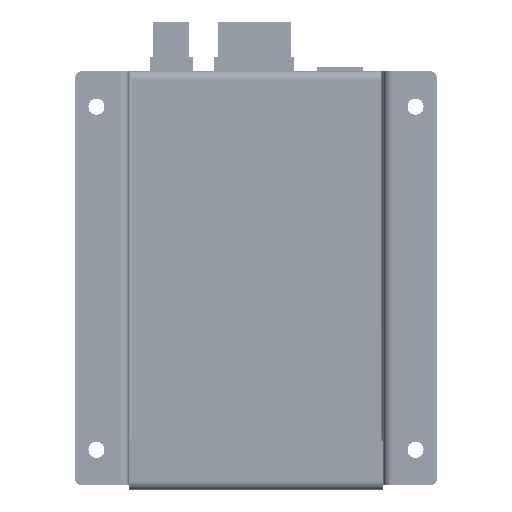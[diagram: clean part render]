
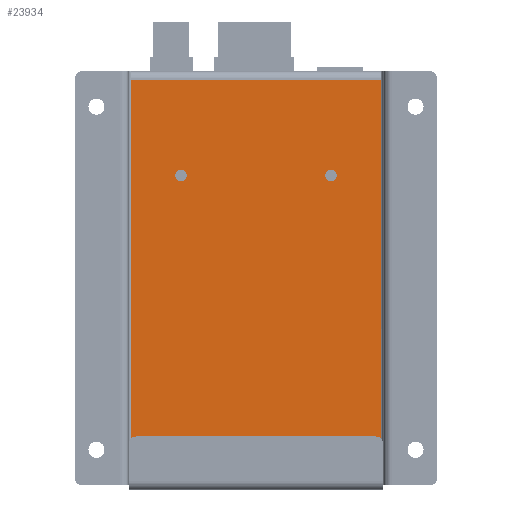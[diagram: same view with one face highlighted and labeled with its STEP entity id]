
A CAD part, front view. The second image highlights one B-rep face of the part: STEP entity #23934.
In plain terms, the highlighted planar face has unit normal (0, -1, 0).
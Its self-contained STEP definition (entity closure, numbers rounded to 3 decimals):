
#10000 = VERTEX_POINT ( 'NONE', #169410 ) ;
#12041 = ORIENTED_EDGE ( 'NONE', *, *, #264427, .F. ) ;
#13746 = VERTEX_POINT ( 'NONE', #21227 ) ;
#16510 = EDGE_CURVE ( 'NONE', #114300, #29558, #281711, .T. ) ;
#17938 = AXIS2_PLACEMENT_3D ( 'NONE', #119815, #331924, #148658 ) ;
#18495 = CARTESIAN_POINT ( 'NONE',  ( -34.5, -1.2, -56. ) ) ;
#19649 = FACE_BOUND ( 'NONE', #92859, .T. ) ;
#19705 = CARTESIAN_POINT ( 'NONE',  ( -21., -1.2, 28. ) ) ;
#19947 = EDGE_CURVE ( 'NONE', #43396, #320177, #267057, .T. ) ;
#21227 = CARTESIAN_POINT ( 'NONE',  ( 21., -1.2, -47.5 ) ) ;
#21623 = DIRECTION ( 'NONE',  ( 0., 0., 1. ) ) ;
#23934 = ADVANCED_FACE ( 'NONE', ( #72295, #202880, #19649, #73962, #253833 ), #326862, .T. ) ;
#25247 = ORIENTED_EDGE ( 'NONE', *, *, #89640, .F. ) ;
#29431 = VERTEX_POINT ( 'NONE', #198730 ) ;
#29558 = VERTEX_POINT ( 'NONE', #296949 ) ;
#32833 = LINE ( 'NONE', #244879, #218709 ) ;
#34521 = CARTESIAN_POINT ( 'NONE',  ( -21., -1.2, -47.5 ) ) ;
#34747 = CARTESIAN_POINT ( 'NONE',  ( -21., -1.2, 31.2 ) ) ;
#36784 = EDGE_CURVE ( 'NONE', #174216, #129962, #219964, .T. ) ;
#38101 = AXIS2_PLACEMENT_3D ( 'NONE', #47118, #198125, #21623 ) ;
#40131 = AXIS2_PLACEMENT_3D ( 'NONE', #221566, #140066, #223225 ) ;
#43396 = VERTEX_POINT ( 'NONE', #191731 ) ;
#45158 = CARTESIAN_POINT ( 'NONE',  ( 0., -1.2, 0. ) ) ;
#47118 = CARTESIAN_POINT ( 'NONE',  ( 21., -1.2, -45.9 ) ) ;
#50888 = EDGE_CURVE ( 'NONE', #13746, #10000, #184448, .T. ) ;
#55627 = CARTESIAN_POINT ( 'NONE',  ( -21., -1.2, 29.6 ) ) ;
#56122 = ORIENTED_EDGE ( 'NONE', *, *, #233895, .T. ) ;
#64155 = CARTESIAN_POINT ( 'NONE',  ( 35., -1.2, -56. ) ) ;
#68936 = DIRECTION ( 'NONE',  ( 0., 0., -1. ) ) ;
#72295 = FACE_BOUND ( 'NONE', #134809, .T. ) ;
#73962 = FACE_BOUND ( 'NONE', #214477, .T. ) ;
#77925 = VERTEX_POINT ( 'NONE', #284581 ) ;
#78198 = ORIENTED_EDGE ( 'NONE', *, *, #157833, .F. ) ;
#78385 = ORIENTED_EDGE ( 'NONE', *, *, #16510, .T. ) ;
#82023 = CIRCLE ( 'NONE', #109084, 1.6 ) ;
#83622 = DIRECTION ( 'NONE',  ( 0., 1., 0. ) ) ;
#87001 = DIRECTION ( 'NONE',  ( 0., 0., 1. ) ) ;
#89533 = VERTEX_POINT ( 'NONE', #314432 ) ;
#89640 = EDGE_CURVE ( 'NONE', #29431, #89533, #113984, .T. ) ;
#92859 = EDGE_LOOP ( 'NONE', ( #137679, #56122 ) ) ;
#98925 = CIRCLE ( 'NONE', #288663, 1.6 ) ;
#105920 = VERTEX_POINT ( 'NONE', #34747 ) ;
#109084 = AXIS2_PLACEMENT_3D ( 'NONE', #290941, #161942, #136425 ) ;
#113984 = LINE ( 'NONE', #322723, #252100 ) ;
#114300 = VERTEX_POINT ( 'NONE', #126632 ) ;
#114442 = ORIENTED_EDGE ( 'NONE', *, *, #288554, .T. ) ;
#119815 = CARTESIAN_POINT ( 'NONE',  ( 21., -1.2, 29.6 ) ) ;
#126632 = CARTESIAN_POINT ( 'NONE',  ( -35., -1.2, -56. ) ) ;
#129962 = VERTEX_POINT ( 'NONE', #64155 ) ;
#132806 = CARTESIAN_POINT ( 'NONE',  ( -21., -1.2, -45.9 ) ) ;
#133539 = EDGE_CURVE ( 'NONE', #285268, #77925, #186075, .T. ) ;
#134696 = DIRECTION ( 'NONE',  ( 0., 0., -1. ) ) ;
#134809 = EDGE_LOOP ( 'NONE', ( #182773, #268921 ) ) ;
#136425 = DIRECTION ( 'NONE',  ( 0., 0., 1. ) ) ;
#137679 = ORIENTED_EDGE ( 'NONE', *, *, #133539, .T. ) ;
#138959 = AXIS2_PLACEMENT_3D ( 'NONE', #298664, #208516, #178007 ) ;
#139413 = DIRECTION ( 'NONE',  ( 1., 0., 0. ) ) ;
#140066 = DIRECTION ( 'NONE',  ( 0., 1., 0. ) ) ;
#142604 = CARTESIAN_POINT ( 'NONE',  ( 21., -1.2, 29.6 ) ) ;
#143999 = AXIS2_PLACEMENT_3D ( 'NONE', #228321, #187346, #134696 ) ;
#147022 = EDGE_CURVE ( 'NONE', #105920, #240047, #82023, .T. ) ;
#148658 = DIRECTION ( 'NONE',  ( 0., 0., 1. ) ) ;
#151985 = DIRECTION ( 'NONE',  ( 0., -1., 0. ) ) ;
#152541 = VECTOR ( 'NONE', #271774, 1000. ) ;
#156594 = DIRECTION ( 'NONE',  ( -1., 0., 0. ) ) ;
#157833 = EDGE_CURVE ( 'NONE', #114300, #29431, #32833, .T. ) ;
#159071 = DIRECTION ( 'NONE',  ( 0., 0., 1. ) ) ;
#161942 = DIRECTION ( 'NONE',  ( 0., 1., 0. ) ) ;
#165049 = CIRCLE ( 'NONE', #219132, 1.6 ) ;
#167860 = LINE ( 'NONE', #209206, #259966 ) ;
#169410 = CARTESIAN_POINT ( 'NONE',  ( 21., -1.2, -44.3 ) ) ;
#169549 = EDGE_CURVE ( 'NONE', #240047, #105920, #165049, .T. ) ;
#169790 = DIRECTION ( 'NONE',  ( 0., 1., 0. ) ) ;
#174216 = VERTEX_POINT ( 'NONE', #174999 ) ;
#174962 = EDGE_CURVE ( 'NONE', #174216, #29558, #167860, .T. ) ;
#174999 = CARTESIAN_POINT ( 'NONE',  ( 34.5, -1.2, -56.5 ) ) ;
#178007 = DIRECTION ( 'NONE',  ( 0., 0., 1. ) ) ;
#182773 = ORIENTED_EDGE ( 'NONE', *, *, #147022, .T. ) ;
#184448 = CIRCLE ( 'NONE', #38101, 1.6 ) ;
#186075 = CIRCLE ( 'NONE', #17938, 1.6 ) ;
#187346 = DIRECTION ( 'NONE',  ( 0., -1., 0. ) ) ;
#191731 = CARTESIAN_POINT ( 'NONE',  ( -21., -1.2, -44.3 ) ) ;
#192586 = ORIENTED_EDGE ( 'NONE', *, *, #50888, .T. ) ;
#193589 = DIRECTION ( 'NONE',  ( 0., 0., 1. ) ) ;
#198125 = DIRECTION ( 'NONE',  ( 0., 1., 0. ) ) ;
#198730 = CARTESIAN_POINT ( 'NONE',  ( -35., -1.2, 56.5 ) ) ;
#202880 = FACE_BOUND ( 'NONE', #331486, .T. ) ;
#208357 = DIRECTION ( 'NONE',  ( 0., 1., 0. ) ) ;
#208516 = DIRECTION ( 'NONE',  ( 0., 1., 0. ) ) ;
#209066 = CARTESIAN_POINT ( 'NONE',  ( 21., -1.2, 31.2 ) ) ;
#209206 = CARTESIAN_POINT ( 'NONE',  ( -35., -1.2, -56.5 ) ) ;
#212785 = AXIS2_PLACEMENT_3D ( 'NONE', #132806, #83622, #87001 ) ;
#214477 = EDGE_LOOP ( 'NONE', ( #233070, #114442 ) ) ;
#218709 = VECTOR ( 'NONE', #316248, 1000. ) ;
#219132 = AXIS2_PLACEMENT_3D ( 'NONE', #55627, #208357, #159071 ) ;
#219964 = CIRCLE ( 'NONE', #143999, 0.5 ) ;
#221566 = CARTESIAN_POINT ( 'NONE',  ( 21., -1.2, -45.9 ) ) ;
#222244 = DIRECTION ( 'NONE',  ( 0., -1., 0. ) ) ;
#223225 = DIRECTION ( 'NONE',  ( 0., 0., 1. ) ) ;
#225837 = LINE ( 'NONE', #251255, #152541 ) ;
#228260 = AXIS2_PLACEMENT_3D ( 'NONE', #45158, #151985, #68936 ) ;
#228321 = CARTESIAN_POINT ( 'NONE',  ( 34.5, -1.2, -56. ) ) ;
#233070 = ORIENTED_EDGE ( 'NONE', *, *, #19947, .T. ) ;
#233895 = EDGE_CURVE ( 'NONE', #77925, #285268, #98925, .T. ) ;
#240047 = VERTEX_POINT ( 'NONE', #19705 ) ;
#240747 = CIRCLE ( 'NONE', #40131, 1.6 ) ;
#244879 = CARTESIAN_POINT ( 'NONE',  ( -35., -1.2, 56.5 ) ) ;
#247650 = ORIENTED_EDGE ( 'NONE', *, *, #262849, .T. ) ;
#251255 = CARTESIAN_POINT ( 'NONE',  ( 35., -1.2, 56.5 ) ) ;
#251970 = ORIENTED_EDGE ( 'NONE', *, *, #174962, .F. ) ;
#252100 = VECTOR ( 'NONE', #139413, 1000. ) ;
#253833 = FACE_OUTER_BOUND ( 'NONE', #316453, .T. ) ;
#258419 = ORIENTED_EDGE ( 'NONE', *, *, #36784, .T. ) ;
#259966 = VECTOR ( 'NONE', #156594, 1000. ) ;
#262849 = EDGE_CURVE ( 'NONE', #10000, #13746, #240747, .T. ) ;
#264427 = EDGE_CURVE ( 'NONE', #89533, #129962, #225837, .T. ) ;
#267057 = CIRCLE ( 'NONE', #212785, 1.6 ) ;
#268921 = ORIENTED_EDGE ( 'NONE', *, *, #169549, .T. ) ;
#271774 = DIRECTION ( 'NONE',  ( 0., 0., -1. ) ) ;
#281711 = CIRCLE ( 'NONE', #303430, 0.5 ) ;
#284581 = CARTESIAN_POINT ( 'NONE',  ( 21., -1.2, 28. ) ) ;
#285268 = VERTEX_POINT ( 'NONE', #209066 ) ;
#288554 = EDGE_CURVE ( 'NONE', #320177, #43396, #307220, .T. ) ;
#288663 = AXIS2_PLACEMENT_3D ( 'NONE', #142604, #169790, #193589 ) ;
#290941 = CARTESIAN_POINT ( 'NONE',  ( -21., -1.2, 29.6 ) ) ;
#295273 = DIRECTION ( 'NONE',  ( 0., 0., -1. ) ) ;
#296949 = CARTESIAN_POINT ( 'NONE',  ( -34.5, -1.2, -56.5 ) ) ;
#298664 = CARTESIAN_POINT ( 'NONE',  ( -21., -1.2, -45.9 ) ) ;
#303430 = AXIS2_PLACEMENT_3D ( 'NONE', #18495, #222244, #295273 ) ;
#307220 = CIRCLE ( 'NONE', #138959, 1.6 ) ;
#314432 = CARTESIAN_POINT ( 'NONE',  ( 35., -1.2, 56.5 ) ) ;
#316248 = DIRECTION ( 'NONE',  ( 0., 0., 1. ) ) ;
#316453 = EDGE_LOOP ( 'NONE', ( #251970, #258419, #12041, #25247, #78198, #78385 ) ) ;
#320177 = VERTEX_POINT ( 'NONE', #34521 ) ;
#322723 = CARTESIAN_POINT ( 'NONE',  ( -35., -1.2, 56.5 ) ) ;
#326862 = PLANE ( 'NONE',  #228260 ) ;
#331486 = EDGE_LOOP ( 'NONE', ( #247650, #192586 ) ) ;
#331924 = DIRECTION ( 'NONE',  ( 0., 1., 0. ) ) ;
